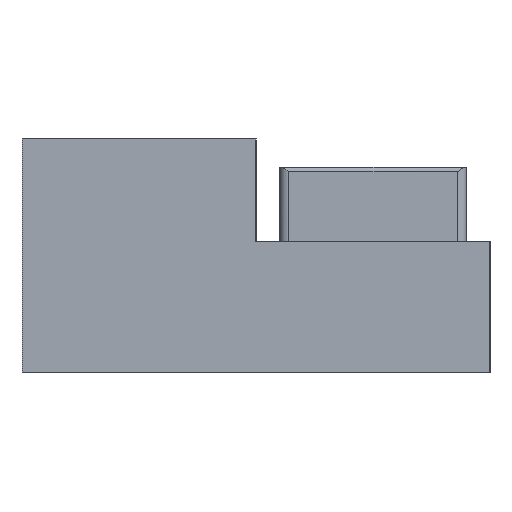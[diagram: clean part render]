
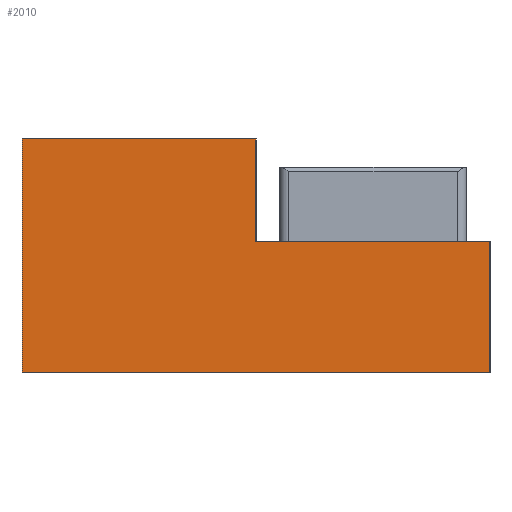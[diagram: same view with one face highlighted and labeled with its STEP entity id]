
A CAD part, left-side view. The second image highlights one B-rep face of the part: STEP entity #2010.
In plain terms, the highlighted planar face has unit normal (-1, 0, 0).
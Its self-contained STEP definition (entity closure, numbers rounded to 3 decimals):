
#109=LINE('',#3032,#285);
#113=LINE('',#3039,#289);
#114=LINE('',#3042,#290);
#117=LINE('',#3048,#293);
#118=LINE('',#3050,#294);
#119=LINE('',#3051,#295);
#285=VECTOR('',#2429,10.);
#289=VECTOR('',#2435,10.);
#290=VECTOR('',#2438,10.);
#293=VECTOR('',#2443,10.);
#294=VECTOR('',#2444,10.);
#295=VECTOR('',#2445,10.);
#462=PLANE('',#2203);
#610=FACE_OUTER_BOUND('',#732,.T.);
#732=EDGE_LOOP('',(#1456,#1457,#1458,#1459,#1460,#1461));
#967=VERTEX_POINT('',#3029);
#968=VERTEX_POINT('',#3031);
#970=VERTEX_POINT('',#3037);
#971=VERTEX_POINT('',#3041);
#973=VERTEX_POINT('',#3047);
#974=VERTEX_POINT('',#3049);
#1161=EDGE_CURVE('',#968,#967,#109,.T.);
#1165=EDGE_CURVE('',#967,#970,#113,.T.);
#1166=EDGE_CURVE('',#971,#968,#114,.T.);
#1169=EDGE_CURVE('',#973,#970,#117,.T.);
#1170=EDGE_CURVE('',#974,#973,#118,.T.);
#1171=EDGE_CURVE('',#971,#974,#119,.T.);
#1456=ORIENTED_EDGE('',*,*,#1161,.T.);
#1457=ORIENTED_EDGE('',*,*,#1165,.T.);
#1458=ORIENTED_EDGE('',*,*,#1169,.F.);
#1459=ORIENTED_EDGE('',*,*,#1170,.F.);
#1460=ORIENTED_EDGE('',*,*,#1171,.F.);
#1461=ORIENTED_EDGE('',*,*,#1166,.T.);
#2010=ADVANCED_FACE('',(#610),#462,.T.);
#2203=AXIS2_PLACEMENT_3D('',#3046,#2441,#2442);
#2429=DIRECTION('',(0.,1.,0.));
#2435=DIRECTION('',(0.,0.,1.));
#2438=DIRECTION('',(0.,0.,1.));
#2441=DIRECTION('center_axis',(-1.,0.,0.));
#2442=DIRECTION('ref_axis',(0.,-1.,0.));
#2443=DIRECTION('',(0.,-1.,0.));
#2444=DIRECTION('',(0.,0.,1.));
#2445=DIRECTION('',(0.,1.,0.));
#3029=CARTESIAN_POINT('',(-30.,-12.5,14.));
#3031=CARTESIAN_POINT('',(-30.,-37.5,14.));
#3032=CARTESIAN_POINT('',(-30.,-12.5,14.));
#3037=CARTESIAN_POINT('',(-30.,-12.5,25.));
#3039=CARTESIAN_POINT('',(-30.,-12.5,7.));
#3041=CARTESIAN_POINT('',(-30.,-37.5,0.));
#3042=CARTESIAN_POINT('',(-30.,-37.5,0.));
#3046=CARTESIAN_POINT('Origin',(-30.,12.5,0.));
#3047=CARTESIAN_POINT('',(-30.,12.5,25.));
#3048=CARTESIAN_POINT('',(-30.,-37.5,25.));
#3049=CARTESIAN_POINT('',(-30.,12.5,0.));
#3050=CARTESIAN_POINT('',(-30.,12.5,0.));
#3051=CARTESIAN_POINT('',(-30.,-37.5,0.));
